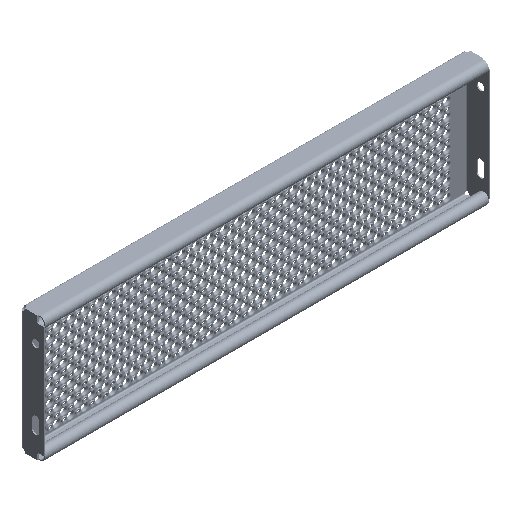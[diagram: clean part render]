
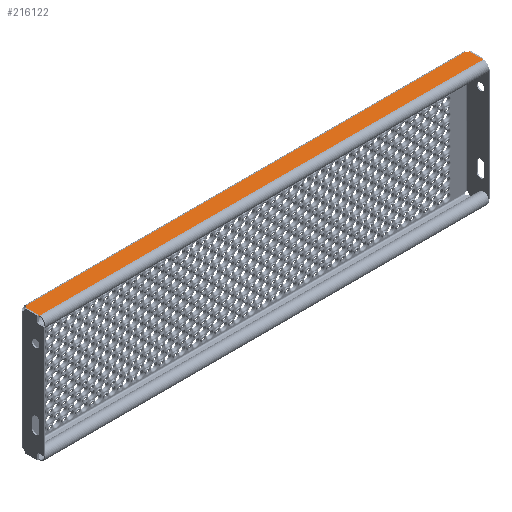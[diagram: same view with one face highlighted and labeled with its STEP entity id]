
A CAD part, isometric view. The second image highlights one B-rep face of the part: STEP entity #216122.
In plain terms, the highlighted planar face has unit normal (0, 0, 1).
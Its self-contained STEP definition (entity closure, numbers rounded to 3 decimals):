
#8444 = EDGE_CURVE ( 'NONE', #46157, #132910, #151519, .T. ) ;
#14460 = VERTEX_POINT ( 'NONE', #66993 ) ;
#17548 = VERTEX_POINT ( 'NONE', #262132 ) ;
#17997 = ORIENTED_EDGE ( 'NONE', *, *, #8444, .T. ) ;
#19339 = LINE ( 'NONE', #118491, #252743 ) ;
#20739 = LINE ( 'NONE', #100325, #151932 ) ;
#31280 = VERTEX_POINT ( 'NONE', #231204 ) ;
#38124 = EDGE_CURVE ( 'NONE', #14460, #107291, #153743, .T. ) ;
#46157 = VERTEX_POINT ( 'NONE', #97540 ) ;
#55133 = AXIS2_PLACEMENT_3D ( 'NONE', #233965, #131610, #107197 ) ;
#62336 = DIRECTION ( 'NONE',  ( 0., -1., 0. ) ) ;
#65202 = CIRCLE ( 'NONE', #153591, 5. ) ;
#66993 = CARTESIAN_POINT ( 'NONE',  ( 397.99, -7.185, 112.5 ) ) ;
#74319 = DIRECTION ( 'NONE',  ( 0., -1., 0. ) ) ;
#84044 = ORIENTED_EDGE ( 'NONE', *, *, #38124, .T. ) ;
#97540 = CARTESIAN_POINT ( 'NONE',  ( -397.99, -31.998, 112.5 ) ) ;
#100325 = CARTESIAN_POINT ( 'NONE',  ( -397.99, -7.185, 112.5 ) ) ;
#107197 = DIRECTION ( 'NONE',  ( 0., -1., 0. ) ) ;
#107291 = VERTEX_POINT ( 'NONE', #313539 ) ;
#118491 = CARTESIAN_POINT ( 'NONE',  ( -399., -4., 112.5 ) ) ;
#129065 = ORIENTED_EDGE ( 'NONE', *, *, #199489, .T. ) ;
#131610 = DIRECTION ( 'NONE',  ( 0., 0., -1. ) ) ;
#132910 = VERTEX_POINT ( 'NONE', #225544 ) ;
#135541 = DIRECTION ( 'NONE',  ( 0., 0., 1. ) ) ;
#135966 = AXIS2_PLACEMENT_3D ( 'NONE', #259067, #135541, #62336 ) ;
#143946 = EDGE_CURVE ( 'NONE', #31280, #107291, #19339, .T. ) ;
#144039 = CARTESIAN_POINT ( 'NONE',  ( 397.99, -7.185, 112.5 ) ) ;
#147273 = LINE ( 'NONE', #144039, #316908 ) ;
#151519 = LINE ( 'NONE', #200276, #173929 ) ;
#151932 = VECTOR ( 'NONE', #74319, 1000. ) ;
#153591 = AXIS2_PLACEMENT_3D ( 'NONE', #204228, #259454, #285444 ) ;
#153743 = CIRCLE ( 'NONE', #55133, 5. ) ;
#159891 = FACE_OUTER_BOUND ( 'NONE', #213101, .T. ) ;
#166188 = ORIENTED_EDGE ( 'NONE', *, *, #143946, .F. ) ;
#166581 = EDGE_CURVE ( 'NONE', #17548, #46157, #20739, .T. ) ;
#173929 = VECTOR ( 'NONE', #317414, 1000. ) ;
#199489 = EDGE_CURVE ( 'NONE', #132910, #14460, #147273, .T. ) ;
#200276 = CARTESIAN_POINT ( 'NONE',  ( -397.99, -31.998, 112.5 ) ) ;
#204228 = CARTESIAN_POINT ( 'NONE',  ( -399., -2.288, 112.5 ) ) ;
#213101 = EDGE_LOOP ( 'NONE', ( #17997, #129065, #84044, #166188, #321258, #252189 ) ) ;
#216122 = ADVANCED_FACE ( 'NONE', ( #159891 ), #285062, .T. ) ;
#225544 = CARTESIAN_POINT ( 'NONE',  ( 397.99, -31.998, 112.5 ) ) ;
#231204 = CARTESIAN_POINT ( 'NONE',  ( -394.302, -4., 112.5 ) ) ;
#233965 = CARTESIAN_POINT ( 'NONE',  ( 399., -2.288, 112.5 ) ) ;
#252189 = ORIENTED_EDGE ( 'NONE', *, *, #166581, .T. ) ;
#252743 = VECTOR ( 'NONE', #269644, 1000. ) ;
#259067 = CARTESIAN_POINT ( 'NONE',  ( -399., 220.712, 112.5 ) ) ;
#259454 = DIRECTION ( 'NONE',  ( 0., 0., -1. ) ) ;
#262132 = CARTESIAN_POINT ( 'NONE',  ( -397.99, -7.185, 112.5 ) ) ;
#269644 = DIRECTION ( 'NONE',  ( 1., 0., 0. ) ) ;
#270819 = DIRECTION ( 'NONE',  ( 0., 1., 0. ) ) ;
#283214 = EDGE_CURVE ( 'NONE', #31280, #17548, #65202, .T. ) ;
#285062 = PLANE ( 'NONE',  #135966 ) ;
#285444 = DIRECTION ( 'NONE',  ( 0., -1., 0. ) ) ;
#313539 = CARTESIAN_POINT ( 'NONE',  ( 394.302, -4., 112.5 ) ) ;
#316908 = VECTOR ( 'NONE', #270819, 1000. ) ;
#317414 = DIRECTION ( 'NONE',  ( 1., 0., 0. ) ) ;
#321258 = ORIENTED_EDGE ( 'NONE', *, *, #283214, .T. ) ;
